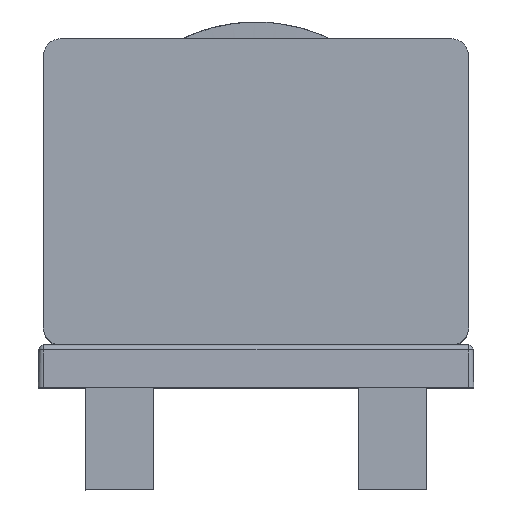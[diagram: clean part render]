
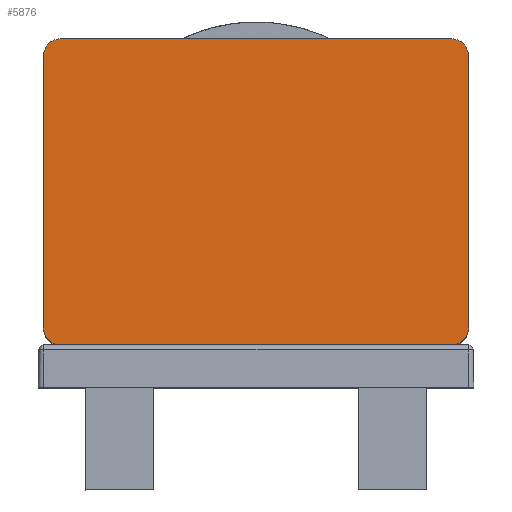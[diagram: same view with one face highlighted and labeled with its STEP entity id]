
A CAD part, top view. The second image highlights one B-rep face of the part: STEP entity #5876.
In plain terms, the highlighted planar face has unit normal (0, 0, 1).
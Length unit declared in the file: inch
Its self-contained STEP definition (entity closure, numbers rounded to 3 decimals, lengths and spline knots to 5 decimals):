
#1 = VERTEX_POINT ( 'NONE', #5260 ) ;
#67 = CARTESIAN_POINT ( 'NONE',  ( -0.49212, -0.35433, 0.61614 ) ) ;
#322 = DIRECTION ( 'NONE',  ( 1., 0., 0. ) ) ;
#366 = VERTEX_POINT ( 'NONE', #632 ) ;
#593 = ORIENTED_EDGE ( 'NONE', *, *, #998, .F. ) ;
#632 = CARTESIAN_POINT ( 'NONE',  ( -0.49213, 0.31496, 0.61614 ) ) ;
#688 = VERTEX_POINT ( 'NONE', #6816 ) ;
#992 = CIRCLE ( 'NONE', #3310, 0.03937 ) ;
#998 = EDGE_CURVE ( 'Defeatured_0_145+Defeatured_0_149+Defeatured_0_160+Defeatured_0_161', #1, #2884, #3155, .T. ) ;
#1052 = EDGE_CURVE ( 'Defeatured_0_149+Defeatured_0_160+Defeatured_0_145+Defeatured_0_148', #1, #7574, #992, .T. ) ;
#1181 = VECTOR ( 'NONE', #322, 39.37008 ) ;
#1431 = CARTESIAN_POINT ( 'NONE',  ( 0., 0., 0.61614 ) ) ;
#1618 = AXIS2_PLACEMENT_3D ( 'NONE', #3852, #8967, #4575 ) ;
#2142 = DIRECTION ( 'NONE',  ( 0., 1., 0. ) ) ;
#2182 = AXIS2_PLACEMENT_3D ( 'NONE', #3008, #8159, #3772 ) ;
#2884 = VERTEX_POINT ( 'NONE', #4195 ) ;
#2900 = ORIENTED_EDGE ( 'NONE', *, *, #8285, .T. ) ;
#3008 = CARTESIAN_POINT ( 'NONE',  ( -0.45275, -0.31496, 0.61614 ) ) ;
#3070 = CARTESIAN_POINT ( 'NONE',  ( -0.49212, -0.31496, 0.61614 ) ) ;
#3085 = EDGE_LOOP ( 'NONE', ( #8139, #5948, #9107, #5387, #9414, #2900, #593, #8594 ) ) ;
#3155 = LINE ( 'NONE', #9222, #8784 ) ;
#3265 = EDGE_CURVE ( 'Defeatured_0_148+Defeatured_0_149+Defeatured_0_158+Defeatured_0_160', #5277, #7574, #8749, .T. ) ;
#3310 = AXIS2_PLACEMENT_3D ( 'NONE', #3402, #3567, #3847 ) ;
#3402 = CARTESIAN_POINT ( 'NONE',  ( 0.45275, 0.31496, 0.61614 ) ) ;
#3408 = VERTEX_POINT ( 'NONE', #9263 ) ;
#3430 = VECTOR ( 'NONE', #5889, 39.37008 ) ;
#3567 = DIRECTION ( 'NONE',  ( 0., 0., 1. ) ) ;
#3747 = EDGE_CURVE ( 'Defeatured_0_149+Defeatured_0_158+Defeatured_0_148+Defeatured_0_147', #5277, #366, #7808, .T. ) ;
#3772 = DIRECTION ( 'NONE',  ( 0., 1., 0. ) ) ;
#3839 = DIRECTION ( 'NONE',  ( -1., 0., 0. ) ) ;
#3847 = DIRECTION ( 'NONE',  ( 0., 1., 0. ) ) ;
#3852 = CARTESIAN_POINT ( 'NONE',  ( -0.45276, 0.31496, 0.61614 ) ) ;
#4050 = CARTESIAN_POINT ( 'NONE',  ( 0.45276, -0.31496, 0.61614 ) ) ;
#4195 = CARTESIAN_POINT ( 'NONE',  ( 0.49213, -0.31496, 0.61614 ) ) ;
#4257 = EDGE_CURVE ( 'Defeatured_0_1+Defeatured_0_149+Defeatured_0_161+Defeatured_0_159', #3408, #688, #6880, .T. ) ;
#4575 = DIRECTION ( 'NONE',  ( 0., 1., 0. ) ) ;
#4613 = CIRCLE ( 'NONE', #6209, 0.03937 ) ;
#4681 = CARTESIAN_POINT ( 'NONE',  ( 0.49212, 0.35433, 0.61614 ) ) ;
#4782 = DIRECTION ( 'NONE',  ( 0., 1., 0. ) ) ;
#5168 = VECTOR ( 'NONE', #3839, 39.37008 ) ;
#5260 = CARTESIAN_POINT ( 'NONE',  ( 0.49212, 0.31496, 0.61614 ) ) ;
#5277 = VERTEX_POINT ( 'NONE', #7941 ) ;
#5387 = ORIENTED_EDGE ( 'NONE', *, *, #6015, .T. ) ;
#5876 = ADVANCED_FACE ( 'Defeatured_0_149', ( #6420 ), #7252, .T. ) ;
#5889 = DIRECTION ( 'NONE',  ( 0., 1., 0. ) ) ;
#5948 = ORIENTED_EDGE ( 'NONE', *, *, #3747, .T. ) ;
#6015 = EDGE_CURVE ( 'Defeatured_0_149+Defeatured_0_159+Defeatured_0_147+Defeatured_0_1', #8184, #688, #6076, .T. ) ;
#6076 = CIRCLE ( 'NONE', #2182, 0.03937 ) ;
#6209 = AXIS2_PLACEMENT_3D ( 'NONE', #4050, #9179, #4782 ) ;
#6420 = FACE_OUTER_BOUND ( 'NONE', #3085, .T. ) ;
#6563 = DIRECTION ( 'NONE',  ( 0., 0., 1. ) ) ;
#6809 = AXIS2_PLACEMENT_3D ( 'NONE', #1431, #6563, #2142 ) ;
#6816 = CARTESIAN_POINT ( 'NONE',  ( -0.45275, -0.35433, 0.61614 ) ) ;
#6880 = LINE ( 'NONE', #8277, #5168 ) ;
#7252 = PLANE ( 'NONE',  #6809 ) ;
#7457 = DIRECTION ( 'NONE',  ( 0., -1., 0. ) ) ;
#7574 = VERTEX_POINT ( 'NONE', #9061 ) ;
#7808 = CIRCLE ( 'NONE', #1618, 0.03937 ) ;
#7941 = CARTESIAN_POINT ( 'NONE',  ( -0.45276, 0.35433, 0.61614 ) ) ;
#8139 = ORIENTED_EDGE ( 'NONE', *, *, #3265, .F. ) ;
#8159 = DIRECTION ( 'NONE',  ( 0., 0., 1. ) ) ;
#8184 = VERTEX_POINT ( 'NONE', #3070 ) ;
#8277 = CARTESIAN_POINT ( 'NONE',  ( 0.49213, -0.35433, 0.61614 ) ) ;
#8285 = EDGE_CURVE ( 'Defeatured_0_149+Defeatured_0_161+Defeatured_0_1+Defeatured_0_145', #3408, #2884, #4613, .T. ) ;
#8594 = ORIENTED_EDGE ( 'NONE', *, *, #1052, .T. ) ;
#8749 = LINE ( 'NONE', #4681, #1181 ) ;
#8784 = VECTOR ( 'NONE', #7457, 39.37008 ) ;
#8793 = EDGE_CURVE ( 'Defeatured_0_147+Defeatured_0_149+Defeatured_0_159+Defeatured_0_158', #8184, #366, #9294, .T. ) ;
#8967 = DIRECTION ( 'NONE',  ( 0., 0., 1. ) ) ;
#9061 = CARTESIAN_POINT ( 'NONE',  ( 0.45275, 0.35433, 0.61614 ) ) ;
#9107 = ORIENTED_EDGE ( 'NONE', *, *, #8793, .F. ) ;
#9179 = DIRECTION ( 'NONE',  ( 0., 0., 1. ) ) ;
#9222 = CARTESIAN_POINT ( 'NONE',  ( 0.49213, -0.35433, 0.61614 ) ) ;
#9263 = CARTESIAN_POINT ( 'NONE',  ( 0.45276, -0.35433, 0.61614 ) ) ;
#9294 = LINE ( 'NONE', #67, #3430 ) ;
#9414 = ORIENTED_EDGE ( 'NONE', *, *, #4257, .F. ) ;
